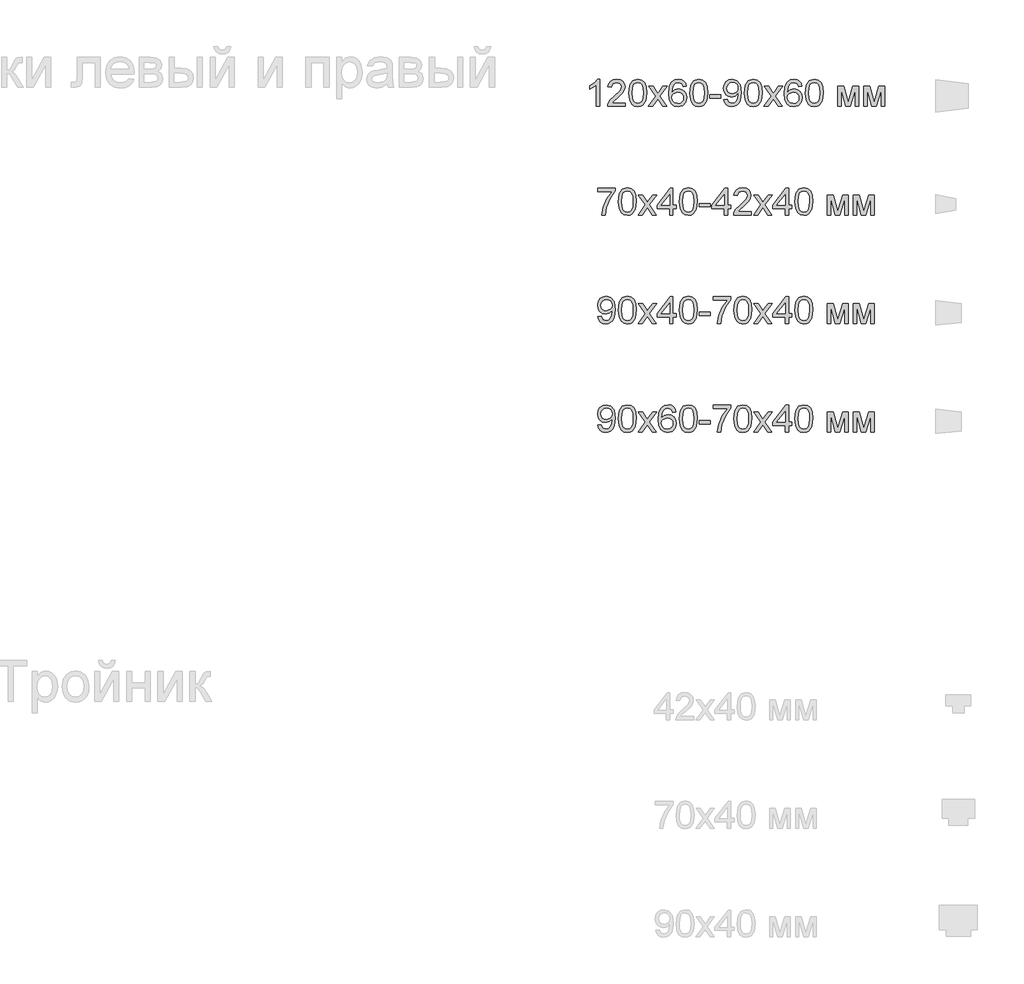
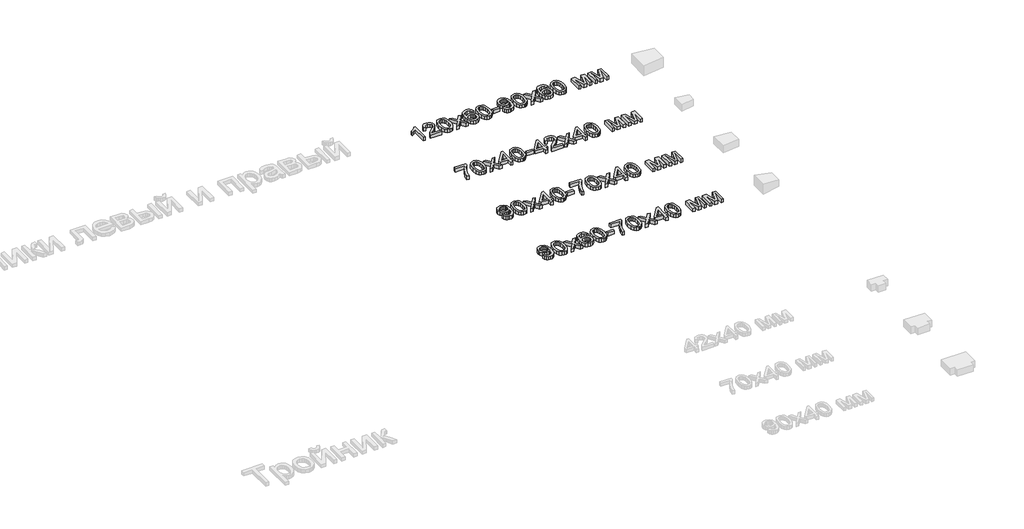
# One storey, part 17 of 21: 4 proxies.
"""IFC4 building model written with IfcOpenShell, lengths in millimetres."""

from ifc_helpers import new_model, si_unit, origin, origin_with_axes, place, context, project, spatial, polyline, outline, extrude, element, save

model = new_model("IFC4")

# Units and contexts
model_context = context("Model", 3, world=origin())
ifc_project = project(units=[si_unit("LENGTHUNIT", "METRE", prefix="MILLI")], contexts=[model_context])

# Site, building, storey
site = spatial("IfcSite", under=ifc_project)
building = spatial("IfcBuilding", under=site)
storey = spatial("IfcBuildingStorey", under=building, Name="Этаж 01", Elevation=0.0)

# Proxies
placement = place(None, origin())
element("IfcBuildingElementProxy", 1, Name="100 мм Arial", ObjectType="100 мм Arial", at=placement, inside=storey, context=model_context, shape_type="SweptSolid", body=[
    extrude(outline(polyline([(22604.0566494, -2534.8846335), (22591.4996106, -2534.8846335), (22591.4996106, -2456.5993449), (22579.6047594, -2465.0728936), (22566.3855331, -2471.4127266), (22566.3855331, -2459.5424009), (22584.7918956, -2447.7947025), (22595.9632455, -2434.4283234), (22604.0566494, -2434.4283234), (22604.0566494, -2534.8846335)])), origin_with_axes(), (0.0, 0.0, 1.0), 20.0),
    extrude(outline(polyline([(22698.2344402, -2522.3275947), (22698.2344402, -2534.8846335), (22632.3099866, -2534.8846335), (22633.6588873, -2526.2271439), (22641.2863073, -2512.8975529), (22657.0071312, -2498.3416887), (22678.6876435, -2477.4214659), (22684.1077715, -2463.1966954), (22678.9942118, -2451.6819889), (22665.6400954, -2446.9853621), (22651.7218932, -2451.5716243), (22646.4366552, -2464.2512904), (22633.8796165, -2462.6816606), (22636.92384, -2450.5354234), (22643.505862, -2441.6633359), (22653.282326, -2436.2370765), (22665.9098755, -2434.4283234), (22678.6293955, -2436.4394116), (22688.3874654, -2442.4726763), (22694.5954741, -2451.4857852), (22696.6648103, -2462.4364059), (22694.4329929, -2474.3435198), (22687.0140393, -2486.6553039), (22669.0246097, -2503.8599186), (22654.5791101, -2515.9387108), (22648.9137273, -2522.3275947), (22698.2344402, -2522.3275947)])), origin_with_axes(), (0.0, 0.0, 1.0), 20.0),
    extrude(outline(polyline([(22710.7914789, -2485.4658188), (22714.4825616, -2456.5625567), (22725.4454451, -2439.8975024), (22743.7537057, -2434.4283234), (22758.4199346, -2437.6656849), (22768.5489522, -2446.9976249), (22774.4350641, -2461.8600575), (22776.7159325, -2485.4658188), (22773.061638, -2514.2464536), (22762.1355427, -2530.9482962), (22753.9041831, -2535.0777716), (22743.7537057, -2536.4542634), (22730.7061576, -2534.0630304), (22720.7978692, -2526.8893315), (22713.2930765, -2509.8993147), (22710.7914789, -2485.4658188)]), holes=[polyline([(22723.3485177, -2485.4412934), (22724.8200457, -2505.1934908), (22729.2346296, -2516.6254238), (22735.8074546, -2522.0792744), (22743.7537057, -2523.8972246), (22751.6999568, -2522.073143), (22758.2727818, -2516.6008984), (22762.6873657, -2505.162834), (22764.1588937, -2485.4412934), (22762.7364166, -2466.13362), (22758.4689855, -2454.6127822), (22751.9084233, -2448.8922171), (22743.6065529, -2446.9853621), (22735.7461409, -2448.6653566), (22729.4308333, -2453.7053399), (22724.8690966, -2465.9435476), (22723.3485177, -2485.4412934)])]), origin_with_axes(), (0.0, 0.0, 1.0), 20.0),
    extrude(outline(polyline([(22782.9944518, -2534.8846335), (22809.825312, -2497.8021284), (22784.5640817, -2461.1120307), (22799.671769, -2461.1120307), (22811.8609257, -2478.7703665), (22817.5508339, -2487.1090251), (22822.4804527, -2480.2909454), (22836.3618666, -2461.1120307), (22851.4695539, -2461.1120307), (22824.9329993, -2497.8021284), (22850.4885352, -2534.8846335), (22835.380848, -2534.8846335), (22820.0033806, -2512.5909846), (22817.1829519, -2508.5197572), (22798.1021391, -2534.8846335), (22782.9944518, -2534.8846335)])), origin_with_axes(), (0.0, 0.0, 1.0), 20.0),
    extrude(outline(polyline([(22922.6915081, -2461.1120307), (22910.1344694, -2462.6816606), (22905.3765289, -2452.2092865), (22892.7949647, -2446.9853621), (22881.4641992, -2450.02652), (22872.8925487, -2461.4431245), (22869.3240934, -2483.8226126), (22880.3973414, -2473.8039596), (22894.1193399, -2470.5298098), (22905.7198854, -2472.7677586), (22915.4564956, -2479.481605), (22922.0599774, -2489.7393813), (22924.261138, -2502.6091198), (22920.1163342, -2519.9363618), (22908.7119923, -2532.1990949), (22892.2554044, -2536.4542634), (22878.0091742, -2533.6338347), (22866.6630803, -2525.1725488), (22859.241061, -2510.2365398), (22856.7670546, -2487.9919419), (22859.5139068, -2462.9820976), (22867.7544635, -2445.8817161), (22879.0055212, -2437.2916716), (22893.5797796, -2434.4283234), (22904.5978454, -2436.2002883), (22913.4208819, -2441.5161831), (22919.6012994, -2449.9590749), (22922.6915081, -2461.1120307)]), holes=[polyline([(22869.3240934, -2502.4129161), (22872.2303611, -2513.2899604), (22879.955883, -2521.1871606), (22891.2743858, -2523.8972246), (22899.5609277, -2522.4931416), (22906.0755047, -2518.2808928), (22910.2969506, -2511.6590169), (22911.7040992, -2503.0260527), (22910.3153447, -2494.7395108), (22906.1490811, -2488.4211375), (22899.5241395, -2484.4204208), (22890.759351, -2483.0868486), (22875.5658246, -2488.4211375), (22870.8845262, -2494.5862266), (22869.3240934, -2502.4129161)])]), origin_with_axes(), (0.0, 0.0, 1.0), 20.0),
    extrude(outline(polyline([(22935.2485469, -2485.4658188), (22938.9396296, -2456.5625567), (22949.9025131, -2439.8975024), (22968.2107737, -2434.4283234), (22982.8770026, -2437.6656849), (22993.0060202, -2446.9976249), (22998.8921321, -2461.8600575), (23001.1730005, -2485.4658188), (22997.518706, -2514.2464536), (22986.5926107, -2530.9482962), (22978.3612511, -2535.0777716), (22968.2107737, -2536.4542634), (22955.1632256, -2534.0630304), (22945.2549372, -2526.8893315), (22937.7501445, -2509.8993147), (22935.2485469, -2485.4658188)]), holes=[polyline([(22947.8055857, -2485.4412934), (22949.2771137, -2505.1934908), (22953.6916976, -2516.6254238), (22960.2645226, -2522.0792744), (22968.2107737, -2523.8972246), (22976.1570248, -2522.073143), (22982.7298498, -2516.6008984), (22987.1444337, -2505.162834), (22988.6159617, -2485.4412934), (22987.1934846, -2466.13362), (22982.9260535, -2454.6127822), (22976.3654912, -2448.8922171), (22968.0636209, -2446.9853621), (22960.2032089, -2448.6653566), (22953.8879013, -2453.7053399), (22949.3261646, -2465.9435476), (22947.8055857, -2485.4412934)])]), origin_with_axes(), (0.0, 0.0, 1.0), 20.0),
    extrude(outline(polyline([(23009.0211497, -2505.0616664), (23009.0211497, -2492.5046277), (23048.2618958, -2492.5046277), (23048.2618958, -2505.0616664), (23009.0211497, -2505.0616664)])), origin_with_axes(), (0.0, 0.0, 1.0), 20.0),
    extrude(outline(polyline([(23060.8189346, -2509.770556), (23073.3759734, -2508.2009261), (23079.0168306, -2520.1816164), (23089.709934, -2523.8972246), (23099.8757398, -2521.5059916), (23106.7673958, -2515.1171076), (23110.8754114, -2504.2032751), (23112.6902959, -2489.6351481), (23112.6167195, -2487.1826015), (23102.5735411, -2496.6984824), (23088.8024917, -2500.3527769), (23077.3521646, -2498.1209595), (23067.8209552, -2491.4255071), (23061.3922174, -2481.0818917), (23059.2493048, -2467.9055849), (23061.4964506, -2454.2939511), (23068.2378882, -2443.6253732), (23078.3638401, -2436.7275858), (23090.764529, -2434.4283234), (23108.6558567, -2439.6767732), (23120.9676408, -2454.6373076), (23125.1737583, -2482.7434921), (23120.9799035, -2513.2409095), (23115.7651763, -2523.2319713), (23108.5087039, -2530.5191005), (23099.5231862, -2534.9704726), (23089.1213228, -2536.4542634), (23078.3852999, -2534.7037582), (23069.8197808, -2529.4522427), (23063.8294356, -2521.0308107), (23060.8189346, -2509.770556)]), holes=[polyline([(23112.6167195, -2467.6112793), (23111.2616875, -2459.1009425), (23107.1965915, -2452.552643), (23100.8874152, -2448.3771823), (23092.8001427, -2446.9853621), (23084.4124332, -2448.4844813), (23077.6924554, -2452.9818387), (23073.2778715, -2459.8642976), (23071.8063435, -2468.5187216), (23073.1981637, -2476.277966), (23077.3736244, -2482.4369237), (23083.9280553, -2486.4560345), (23092.4567862, -2487.7957381), (23106.9390741, -2482.4369237), (23111.1973082, -2476.0511054), (23112.6167195, -2467.6112793)])]), origin_with_axes(), (0.0, 0.0, 1.0), 20.0),
    extrude(outline(polyline([(23136.1611672, -2485.4658188), (23139.8522499, -2456.5625567), (23150.8151334, -2439.8975024), (23169.123394, -2434.4283234), (23183.7896229, -2437.6656849), (23193.9186405, -2446.9976249), (23199.8047524, -2461.8600575), (23202.0856208, -2485.4658188), (23198.4313263, -2514.2464536), (23187.505231, -2530.9482962), (23179.2738714, -2535.0777716), (23169.123394, -2536.4542634), (23156.0758459, -2534.0630304), (23146.1675575, -2526.8893315), (23138.6627648, -2509.8993147), (23136.1611672, -2485.4658188)]), holes=[polyline([(23148.718206, -2485.4412934), (23150.189734, -2505.1934908), (23154.6043179, -2516.6254238), (23161.1771429, -2522.0792744), (23169.123394, -2523.8972246), (23177.0696451, -2522.073143), (23183.6424701, -2516.6008984), (23188.057054, -2505.162834), (23189.528582, -2485.4412934), (23188.1061049, -2466.13362), (23183.8386738, -2454.6127822), (23177.2781115, -2448.8922171), (23168.9762412, -2446.9853621), (23161.1158292, -2448.6653566), (23154.8005216, -2453.7053399), (23150.2387849, -2465.9435476), (23148.718206, -2485.4412934)])]), origin_with_axes(), (0.0, 0.0, 1.0), 20.0),
    extrude(outline(polyline([(23208.3641401, -2534.8846335), (23235.1950003, -2497.8021284), (23209.93377, -2461.1120307), (23225.0414573, -2461.1120307), (23237.230614, -2478.7703665), (23242.9205222, -2487.1090251), (23247.850141, -2480.2909454), (23261.7315549, -2461.1120307), (23276.8392422, -2461.1120307), (23250.3026876, -2497.8021284), (23275.8582235, -2534.8846335), (23260.7505362, -2534.8846335), (23245.3730689, -2512.5909846), (23242.5526402, -2508.5197572), (23223.4718274, -2534.8846335), (23208.3641401, -2534.8846335)])), origin_with_axes(), (0.0, 0.0, 1.0), 20.0),
    extrude(outline(polyline([(23348.0611964, -2461.1120307), (23335.5041577, -2462.6816606), (23330.7462172, -2452.2092865), (23318.164653, -2446.9853621), (23306.8338875, -2450.02652), (23298.262237, -2461.4431245), (23294.6937817, -2483.8226126), (23305.7670297, -2473.8039596), (23319.4890281, -2470.5298098), (23331.0895737, -2472.7677586), (23340.8261839, -2479.481605), (23347.4296657, -2489.7393813), (23349.6308263, -2502.6091198), (23345.4860225, -2519.9363618), (23334.0816806, -2532.1990949), (23317.6250927, -2536.4542634), (23303.3788624, -2533.6338347), (23292.0327686, -2525.1725488), (23284.6107493, -2510.2365398), (23282.1367429, -2487.9919419), (23284.8835951, -2462.9820976), (23293.1241518, -2445.8817161), (23304.3752095, -2437.2916716), (23318.9494679, -2434.4283234), (23329.9675336, -2436.2002883), (23338.7905702, -2441.5161831), (23344.9709877, -2449.9590749), (23348.0611964, -2461.1120307)]), holes=[polyline([(23294.6937817, -2502.4129161), (23297.6000494, -2513.2899604), (23305.3255713, -2521.1871606), (23316.644074, -2523.8972246), (23324.930616, -2522.4931416), (23331.445193, -2518.2808928), (23335.6666389, -2511.6590169), (23337.0737875, -2503.0260527), (23335.685033, -2494.7395108), (23331.5187694, -2488.4211375), (23324.8938278, -2484.4204208), (23316.1290393, -2483.0868486), (23300.9355129, -2488.4211375), (23296.2542145, -2494.5862266), (23294.6937817, -2502.4129161)])]), origin_with_axes(), (0.0, 0.0, 1.0), 20.0),
    extrude(outline(polyline([(23360.6182352, -2485.4658188), (23364.3093179, -2456.5625567), (23375.2722013, -2439.8975024), (23393.580462, -2434.4283234), (23408.2466908, -2437.6656849), (23418.3757084, -2446.9976249), (23424.2618204, -2461.8600575), (23426.5426887, -2485.4658188), (23422.8883943, -2514.2464536), (23411.962299, -2530.9482962), (23403.7309394, -2535.0777716), (23393.580462, -2536.4542634), (23380.5329139, -2534.0630304), (23370.6246255, -2526.8893315), (23363.1198328, -2509.8993147), (23360.6182352, -2485.4658188)]), holes=[polyline([(23373.175274, -2485.4412934), (23374.646802, -2505.1934908), (23379.0613859, -2516.6254238), (23385.6342109, -2522.0792744), (23393.580462, -2523.8972246), (23401.5267131, -2522.073143), (23408.0995381, -2516.6008984), (23412.514122, -2505.162834), (23413.98565, -2485.4412934), (23412.5631729, -2466.13362), (23408.2957418, -2454.6127822), (23401.7351795, -2448.8922171), (23393.4333092, -2446.9853621), (23385.5728972, -2448.6653566), (23379.2575896, -2453.7053399), (23374.6958529, -2465.9435476), (23373.175274, -2485.4412934)])]), origin_with_axes(), (0.0, 0.0, 1.0), 20.0),
    extrude(outline(polyline([(23479.9101035, -2461.1120307), (23501.5170394, -2461.1120307), (23518.169831, -2520.1693537), (23536.1224724, -2461.1120307), (23556.821966, -2461.1120307), (23556.821966, -2534.8846335), (23544.2649272, -2534.8846335), (23544.2649272, -2475.483954), (23526.214184, -2534.8846335), (23509.7330706, -2534.8846335), (23492.4671423, -2472.6389999), (23492.4671423, -2534.8846335), (23479.9101035, -2534.8846335), (23479.9101035, -2461.1120307)])), origin_with_axes(), (0.0, 0.0, 1.0), 20.0),
    extrude(outline(polyline([(23575.6575241, -2461.1120307), (23597.26446, -2461.1120307), (23613.9172516, -2520.1693537), (23631.869893, -2461.1120307), (23652.5693866, -2461.1120307), (23652.5693866, -2534.8846335), (23640.0123478, -2534.8846335), (23640.0123478, -2475.483954), (23621.9616046, -2534.8846335), (23605.4804912, -2534.8846335), (23588.2145629, -2472.6389999), (23588.2145629, -2534.8846335), (23575.6575241, -2534.8846335), (23575.6575241, -2461.1120307)])), origin_with_axes(), (0.0, 0.0, 1.0), 20.0),
])
element("IfcBuildingElementProxy", 2, Name="100 мм Arial", ObjectType="100 мм Arial", at=placement, inside=storey, context=model_context, shape_type="SweptSolid", body=[
    extrude(outline(polyline([(22595.4236852, -2848.554992), (22595.4236852, -2835.9979532), (22661.3481388, -2835.9979532), (22661.3481388, -2846.1514963), (22642.6474707, -2873.1662975), (22628.3368611, -2907.5877895), (22623.6770225, -2934.8846335), (22611.1199837, -2934.8846335), (22616.1109161, -2906.5577199), (22629.8083891, -2874.5397236), (22648.7911, -2848.554992), (22595.4236852, -2848.554992)])), origin_with_axes(), (0.0, 0.0, 1.0), 20.0),
    extrude(outline(polyline([(22672.3355477, -2885.4658188), (22676.0266304, -2856.5625567), (22686.9895138, -2839.8975024), (22705.2977745, -2834.4283234), (22719.9640033, -2837.6656849), (22730.0930209, -2846.9976249), (22735.9791329, -2861.8600575), (22738.2600012, -2885.4658188), (22734.6057067, -2914.2464536), (22723.6796115, -2930.9482962), (22715.4482518, -2935.0777716), (22705.2977745, -2936.4542634), (22692.2502264, -2934.0630304), (22682.341938, -2926.8893315), (22674.8371453, -2909.8993147), (22672.3355477, -2885.4658188)]), holes=[polyline([(22684.8925865, -2885.4412934), (22686.3641144, -2905.1934908), (22690.7786984, -2916.6254238), (22697.3515234, -2922.0792744), (22705.2977745, -2923.8972246), (22713.2440256, -2922.073143), (22719.8168505, -2916.6008984), (22724.2314345, -2905.162834), (22725.7029625, -2885.4412934), (22724.2804854, -2866.13362), (22720.0130543, -2854.6127822), (22713.452492, -2848.8922171), (22705.1506217, -2846.9853621), (22697.2902097, -2848.6653566), (22690.9749021, -2853.7053399), (22686.4131654, -2865.9435476), (22684.8925865, -2885.4412934)])]), origin_with_axes(), (0.0, 0.0, 1.0), 20.0),
    extrude(outline(polyline([(22744.5385206, -2934.8846335), (22771.3693808, -2897.8021284), (22746.1081505, -2861.1120307), (22761.2158377, -2861.1120307), (22773.4049945, -2878.7703665), (22779.0949027, -2887.1090251), (22784.0245214, -2880.2909454), (22797.9059354, -2861.1120307), (22813.0136227, -2861.1120307), (22786.4770681, -2897.8021284), (22812.032604, -2934.8846335), (22796.9249167, -2934.8846335), (22781.5474493, -2912.5909846), (22778.7270207, -2908.5197572), (22759.6462079, -2934.8846335), (22744.5385206, -2934.8846335)])), origin_with_axes(), (0.0, 0.0, 1.0), 20.0),
    extrude(outline(polyline([(22860.6911292, -2934.8846335), (22860.6911292, -2911.3401858), (22815.1718637, -2911.3401858), (22815.1718637, -2898.7831471), (22863.8303889, -2835.9979532), (22873.248168, -2835.9979532), (22873.248168, -2898.7831471), (22885.8052068, -2898.7831471), (22885.8052068, -2911.3401858), (22873.248168, -2911.3401858), (22873.248168, -2934.8846335), (22860.6911292, -2934.8846335)]), holes=[polyline([(22860.6911292, -2898.7831471), (22860.6911292, -2859.9838593), (22830.6229075, -2898.7831471), (22860.6911292, -2898.7831471)])]), origin_with_axes(), (0.0, 0.0, 1.0), 20.0),
    extrude(outline(polyline([(22896.7926157, -2885.4658188), (22900.4836984, -2856.5625567), (22911.4465818, -2839.8975024), (22929.7548425, -2834.4283234), (22944.4210713, -2837.6656849), (22954.5500889, -2846.9976249), (22960.4362009, -2861.8600575), (22962.7170692, -2885.4658188), (22959.0627747, -2914.2464536), (22948.1366795, -2930.9482962), (22939.9053198, -2935.0777716), (22929.7548425, -2936.4542634), (22916.7072944, -2934.0630304), (22906.799006, -2926.8893315), (22899.2942133, -2909.8993147), (22896.7926157, -2885.4658188)]), holes=[polyline([(22909.3496545, -2885.4412934), (22910.8211824, -2905.1934908), (22915.2357664, -2916.6254238), (22921.8085914, -2922.0792744), (22929.7548425, -2923.8972246), (22937.7010936, -2922.073143), (22944.2739185, -2916.6008984), (22948.6885025, -2905.162834), (22950.1600305, -2885.4412934), (22948.7375534, -2866.13362), (22944.4701223, -2854.6127822), (22937.90956, -2848.8922171), (22929.6076897, -2846.9853621), (22921.7472777, -2848.6653566), (22915.4319701, -2853.7053399), (22910.8702334, -2865.9435476), (22909.3496545, -2885.4412934)])]), origin_with_axes(), (0.0, 0.0, 1.0), 20.0),
    extrude(outline(polyline([(22970.5652185, -2905.0616664), (22970.5652185, -2892.5046277), (23009.8059646, -2892.5046277), (23009.8059646, -2905.0616664), (22970.5652185, -2905.0616664)])), origin_with_axes(), (0.0, 0.0, 1.0), 20.0),
    extrude(outline(polyline([(23061.6037495, -2934.8846335), (23061.6037495, -2911.3401858), (23016.084484, -2911.3401858), (23016.084484, -2898.7831471), (23064.7430092, -2835.9979532), (23074.1607883, -2835.9979532), (23074.1607883, -2898.7831471), (23086.7178271, -2898.7831471), (23086.7178271, -2911.3401858), (23074.1607883, -2911.3401858), (23074.1607883, -2934.8846335), (23061.6037495, -2934.8846335)]), holes=[polyline([(23061.6037495, -2898.7831471), (23061.6037495, -2859.9838593), (23031.5355278, -2898.7831471), (23061.6037495, -2898.7831471)])]), origin_with_axes(), (0.0, 0.0, 1.0), 20.0),
    extrude(outline(polyline([(23162.0600597, -2922.3275947), (23162.0600597, -2934.8846335), (23096.1356061, -2934.8846335), (23097.4845068, -2926.2271439), (23105.1119268, -2912.8975529), (23120.8327507, -2898.3416887), (23142.513263, -2877.4214659), (23147.9333911, -2863.1966954), (23142.8198313, -2851.6819889), (23129.4657149, -2846.9853621), (23115.5475128, -2851.5716243), (23110.2622748, -2864.2512904), (23097.705236, -2862.6816606), (23100.7494595, -2850.5354234), (23107.3314815, -2841.6633359), (23117.1079455, -2836.2370765), (23129.735495, -2834.4283234), (23142.455015, -2836.4394116), (23152.2130849, -2842.4726763), (23158.4210936, -2851.4857852), (23160.4904298, -2862.4364059), (23158.2586124, -2874.3435198), (23150.8396588, -2886.6553039), (23132.8502293, -2903.8599186), (23118.4047296, -2915.9387108), (23112.7393469, -2922.3275947), (23162.0600597, -2922.3275947)])), origin_with_axes(), (0.0, 0.0, 1.0), 20.0),
    extrude(outline(polyline([(23169.9082089, -2934.8846335), (23196.7390691, -2897.8021284), (23171.4778388, -2861.1120307), (23186.585526, -2861.1120307), (23198.7746828, -2878.7703665), (23204.464591, -2887.1090251), (23209.3942097, -2880.2909454), (23223.2756237, -2861.1120307), (23238.3833109, -2861.1120307), (23211.8467564, -2897.8021284), (23237.4022923, -2934.8846335), (23222.294605, -2934.8846335), (23206.9171376, -2912.5909846), (23204.096709, -2908.5197572), (23185.0158962, -2934.8846335), (23169.9082089, -2934.8846335)])), origin_with_axes(), (0.0, 0.0, 1.0), 20.0),
    extrude(outline(polyline([(23286.0608175, -2934.8846335), (23286.0608175, -2911.3401858), (23240.541552, -2911.3401858), (23240.541552, -2898.7831471), (23289.2000772, -2835.9979532), (23298.6178563, -2835.9979532), (23298.6178563, -2898.7831471), (23311.1748951, -2898.7831471), (23311.1748951, -2911.3401858), (23298.6178563, -2911.3401858), (23298.6178563, -2934.8846335), (23286.0608175, -2934.8846335)]), holes=[polyline([(23286.0608175, -2898.7831471), (23286.0608175, -2859.9838593), (23255.9925958, -2898.7831471), (23286.0608175, -2898.7831471)])]), origin_with_axes(), (0.0, 0.0, 1.0), 20.0),
    extrude(outline(polyline([(23322.162304, -2885.4658188), (23325.8533867, -2856.5625567), (23336.8162701, -2839.8975024), (23355.1245307, -2834.4283234), (23369.7907596, -2837.6656849), (23379.9197772, -2846.9976249), (23385.8058891, -2861.8600575), (23388.0867575, -2885.4658188), (23384.432463, -2914.2464536), (23373.5063678, -2930.9482962), (23365.2750081, -2935.0777716), (23355.1245307, -2936.4542634), (23342.0769826, -2934.0630304), (23332.1686942, -2926.8893315), (23324.6639015, -2909.8993147), (23322.162304, -2885.4658188)]), holes=[polyline([(23334.7193427, -2885.4412934), (23336.1908707, -2905.1934908), (23340.6054547, -2916.6254238), (23347.1782796, -2922.0792744), (23355.1245307, -2923.8972246), (23363.0707818, -2922.073143), (23369.6436068, -2916.6008984), (23374.0581908, -2905.162834), (23375.5297187, -2885.4412934), (23374.1072417, -2866.13362), (23369.8398106, -2854.6127822), (23363.2792483, -2848.8922171), (23354.9773779, -2846.9853621), (23347.116966, -2848.6653566), (23340.8016584, -2853.7053399), (23336.2399217, -2865.9435476), (23334.7193427, -2885.4412934)])]), origin_with_axes(), (0.0, 0.0, 1.0), 20.0),
    extrude(outline(polyline([(23441.4541723, -2861.1120307), (23463.0611081, -2861.1120307), (23479.7138998, -2920.1693537), (23497.6665411, -2861.1120307), (23518.3660347, -2861.1120307), (23518.3660347, -2934.8846335), (23505.808996, -2934.8846335), (23505.808996, -2875.483954), (23487.7582527, -2934.8846335), (23471.2771394, -2934.8846335), (23454.011211, -2872.6389999), (23454.011211, -2934.8846335), (23441.4541723, -2934.8846335), (23441.4541723, -2861.1120307)])), origin_with_axes(), (0.0, 0.0, 1.0), 20.0),
    extrude(outline(polyline([(23537.2015929, -2861.1120307), (23558.8085287, -2861.1120307), (23575.4613204, -2920.1693537), (23593.4139618, -2861.1120307), (23614.1134553, -2861.1120307), (23614.1134553, -2934.8846335), (23601.5564166, -2934.8846335), (23601.5564166, -2875.483954), (23583.5056734, -2934.8846335), (23567.02456, -2934.8846335), (23549.7586317, -2872.6389999), (23549.7586317, -2934.8846335), (23537.2015929, -2934.8846335), (23537.2015929, -2861.1120307)])), origin_with_axes(), (0.0, 0.0, 1.0), 20.0),
])
element("IfcBuildingElementProxy", 3, Name="100 мм Arial", ObjectType="100 мм Arial", at=placement, inside=storey, context=model_context, shape_type="SweptSolid", body=[
    extrude(outline(polyline([(22596.9933151, -3309.770556), (22609.5503539, -3308.2009261), (22615.1912111, -3320.1816164), (22625.8843144, -3323.8972246), (22636.0501202, -3321.5059916), (22642.9417763, -3315.1171076), (22647.0497919, -3304.2032751), (22648.8646764, -3289.6351481), (22648.7911, -3287.1826015), (22638.7479215, -3296.6984824), (22624.9768722, -3300.3527769), (22613.5265451, -3298.1209595), (22603.9953357, -3291.4255071), (22597.5665979, -3281.0818917), (22595.4236852, -3267.9055849), (22597.6708311, -3254.2939511), (22604.4122687, -3243.6253732), (22614.5382206, -3236.7275858), (22626.9389095, -3234.4283234), (22644.8302372, -3239.6767732), (22657.1420213, -3254.6373076), (22661.3481388, -3282.7434921), (22657.154284, -3313.2409095), (22651.9395567, -3323.2319713), (22644.6830844, -3330.5191005), (22635.6975667, -3334.9704726), (22625.2957032, -3336.4542634), (22614.5596804, -3334.7037582), (22605.9941612, -3329.4522427), (22600.0038161, -3321.0308107), (22596.9933151, -3309.770556)]), holes=[polyline([(22648.7911, -3267.6112793), (22647.436068, -3259.1009425), (22643.3709719, -3252.552643), (22637.0617957, -3248.3771823), (22628.9745232, -3246.9853621), (22620.5868137, -3248.4844813), (22613.8668359, -3252.9818387), (22609.452252, -3259.8642976), (22607.980724, -3268.5187216), (22609.3725442, -3276.277966), (22613.5480049, -3282.4369237), (22620.1024357, -3286.4560345), (22628.6311667, -3287.7957381), (22643.1134545, -3282.4369237), (22647.3716886, -3276.0511054), (22648.7911, -3267.6112793)])]), origin_with_axes(), (0.0, 0.0, 1.0), 20.0),
    extrude(outline(polyline([(22672.3355477, -3285.4658188), (22676.0266304, -3256.5625567), (22686.9895138, -3239.8975024), (22705.2977745, -3234.4283234), (22719.9640033, -3237.6656849), (22730.0930209, -3246.9976249), (22735.9791329, -3261.8600575), (22738.2600012, -3285.4658188), (22734.6057067, -3314.2464536), (22723.6796115, -3330.9482962), (22715.4482518, -3335.0777716), (22705.2977745, -3336.4542634), (22692.2502264, -3334.0630304), (22682.341938, -3326.8893315), (22674.8371453, -3309.8993147), (22672.3355477, -3285.4658188)]), holes=[polyline([(22684.8925865, -3285.4412934), (22686.3641144, -3305.1934908), (22690.7786984, -3316.6254238), (22697.3515234, -3322.0792744), (22705.2977745, -3323.8972246), (22713.2440256, -3322.073143), (22719.8168505, -3316.6008984), (22724.2314345, -3305.162834), (22725.7029625, -3285.4412934), (22724.2804854, -3266.13362), (22720.0130543, -3254.6127822), (22713.452492, -3248.8922171), (22705.1506217, -3246.9853621), (22697.2902097, -3248.6653566), (22690.9749021, -3253.7053399), (22686.4131654, -3265.9435476), (22684.8925865, -3285.4412934)])]), origin_with_axes(), (0.0, 0.0, 1.0), 20.0),
    extrude(outline(polyline([(22744.5385206, -3334.8846335), (22771.3693808, -3297.8021284), (22746.1081505, -3261.1120307), (22761.2158377, -3261.1120307), (22773.4049945, -3278.7703665), (22779.0949027, -3287.1090251), (22784.0245214, -3280.2909454), (22797.9059354, -3261.1120307), (22813.0136227, -3261.1120307), (22786.4770681, -3297.8021284), (22812.032604, -3334.8846335), (22796.9249167, -3334.8846335), (22781.5474493, -3312.5909846), (22778.7270207, -3308.5197572), (22759.6462079, -3334.8846335), (22744.5385206, -3334.8846335)])), origin_with_axes(), (0.0, 0.0, 1.0), 20.0),
    extrude(outline(polyline([(22860.6911292, -3334.8846335), (22860.6911292, -3311.3401858), (22815.1718637, -3311.3401858), (22815.1718637, -3298.7831471), (22863.8303889, -3235.9979532), (22873.248168, -3235.9979532), (22873.248168, -3298.7831471), (22885.8052068, -3298.7831471), (22885.8052068, -3311.3401858), (22873.248168, -3311.3401858), (22873.248168, -3334.8846335), (22860.6911292, -3334.8846335)]), holes=[polyline([(22860.6911292, -3298.7831471), (22860.6911292, -3259.9838593), (22830.6229075, -3298.7831471), (22860.6911292, -3298.7831471)])]), origin_with_axes(), (0.0, 0.0, 1.0), 20.0),
    extrude(outline(polyline([(22896.7926157, -3285.4658188), (22900.4836984, -3256.5625567), (22911.4465818, -3239.8975024), (22929.7548425, -3234.4283234), (22944.4210713, -3237.6656849), (22954.5500889, -3246.9976249), (22960.4362009, -3261.8600575), (22962.7170692, -3285.4658188), (22959.0627747, -3314.2464536), (22948.1366795, -3330.9482962), (22939.9053198, -3335.0777716), (22929.7548425, -3336.4542634), (22916.7072944, -3334.0630304), (22906.799006, -3326.8893315), (22899.2942133, -3309.8993147), (22896.7926157, -3285.4658188)]), holes=[polyline([(22909.3496545, -3285.4412934), (22910.8211824, -3305.1934908), (22915.2357664, -3316.6254238), (22921.8085914, -3322.0792744), (22929.7548425, -3323.8972246), (22937.7010936, -3322.073143), (22944.2739185, -3316.6008984), (22948.6885025, -3305.162834), (22950.1600305, -3285.4412934), (22948.7375534, -3266.13362), (22944.4701223, -3254.6127822), (22937.90956, -3248.8922171), (22929.6076897, -3246.9853621), (22921.7472777, -3248.6653566), (22915.4319701, -3253.7053399), (22910.8702334, -3265.9435476), (22909.3496545, -3285.4412934)])]), origin_with_axes(), (0.0, 0.0, 1.0), 20.0),
    extrude(outline(polyline([(22970.5652185, -3305.0616664), (22970.5652185, -3292.5046277), (23009.8059646, -3292.5046277), (23009.8059646, -3305.0616664), (22970.5652185, -3305.0616664)])), origin_with_axes(), (0.0, 0.0, 1.0), 20.0),
    extrude(outline(polyline([(23020.7933735, -3248.554992), (23020.7933735, -3235.9979532), (23086.7178271, -3235.9979532), (23086.7178271, -3246.1514963), (23068.017159, -3273.1662975), (23053.7065494, -3307.5877895), (23049.0467108, -3334.8846335), (23036.489672, -3334.8846335), (23041.4806044, -3306.5577199), (23055.1780773, -3274.5397236), (23074.1607883, -3248.554992), (23020.7933735, -3248.554992)])), origin_with_axes(), (0.0, 0.0, 1.0), 20.0),
    extrude(outline(polyline([(23097.705236, -3285.4658188), (23101.3963187, -3256.5625567), (23112.3592021, -3239.8975024), (23130.6674628, -3234.4283234), (23145.3336916, -3237.6656849), (23155.4627092, -3246.9976249), (23161.3488212, -3261.8600575), (23163.6296895, -3285.4658188), (23159.975395, -3314.2464536), (23149.0492998, -3330.9482962), (23140.8179401, -3335.0777716), (23130.6674628, -3336.4542634), (23117.6199147, -3334.0630304), (23107.7116263, -3326.8893315), (23100.2068336, -3309.8993147), (23097.705236, -3285.4658188)]), holes=[polyline([(23110.2622748, -3285.4412934), (23111.7338027, -3305.1934908), (23116.1483867, -3316.6254238), (23122.7212117, -3322.0792744), (23130.6674628, -3323.8972246), (23138.6137138, -3322.073143), (23145.1865388, -3316.6008984), (23149.6011228, -3305.162834), (23151.0726508, -3285.4412934), (23149.6501737, -3266.13362), (23145.3827426, -3254.6127822), (23138.8221803, -3248.8922171), (23130.52031, -3246.9853621), (23122.659898, -3248.6653566), (23116.3445904, -3253.7053399), (23111.7828537, -3265.9435476), (23110.2622748, -3285.4412934)])]), origin_with_axes(), (0.0, 0.0, 1.0), 20.0),
    extrude(outline(polyline([(23169.9082089, -3334.8846335), (23196.7390691, -3297.8021284), (23171.4778388, -3261.1120307), (23186.585526, -3261.1120307), (23198.7746828, -3278.7703665), (23204.464591, -3287.1090251), (23209.3942097, -3280.2909454), (23223.2756237, -3261.1120307), (23238.3833109, -3261.1120307), (23211.8467564, -3297.8021284), (23237.4022923, -3334.8846335), (23222.294605, -3334.8846335), (23206.9171376, -3312.5909846), (23204.096709, -3308.5197572), (23185.0158962, -3334.8846335), (23169.9082089, -3334.8846335)])), origin_with_axes(), (0.0, 0.0, 1.0), 20.0),
    extrude(outline(polyline([(23286.0608175, -3334.8846335), (23286.0608175, -3311.3401858), (23240.541552, -3311.3401858), (23240.541552, -3298.7831471), (23289.2000772, -3235.9979532), (23298.6178563, -3235.9979532), (23298.6178563, -3298.7831471), (23311.1748951, -3298.7831471), (23311.1748951, -3311.3401858), (23298.6178563, -3311.3401858), (23298.6178563, -3334.8846335), (23286.0608175, -3334.8846335)]), holes=[polyline([(23286.0608175, -3298.7831471), (23286.0608175, -3259.9838593), (23255.9925958, -3298.7831471), (23286.0608175, -3298.7831471)])]), origin_with_axes(), (0.0, 0.0, 1.0), 20.0),
    extrude(outline(polyline([(23322.162304, -3285.4658188), (23325.8533867, -3256.5625567), (23336.8162701, -3239.8975024), (23355.1245307, -3234.4283234), (23369.7907596, -3237.6656849), (23379.9197772, -3246.9976249), (23385.8058891, -3261.8600575), (23388.0867575, -3285.4658188), (23384.432463, -3314.2464536), (23373.5063678, -3330.9482962), (23365.2750081, -3335.0777716), (23355.1245307, -3336.4542634), (23342.0769826, -3334.0630304), (23332.1686942, -3326.8893315), (23324.6639015, -3309.8993147), (23322.162304, -3285.4658188)]), holes=[polyline([(23334.7193427, -3285.4412934), (23336.1908707, -3305.1934908), (23340.6054547, -3316.6254238), (23347.1782796, -3322.0792744), (23355.1245307, -3323.8972246), (23363.0707818, -3322.073143), (23369.6436068, -3316.6008984), (23374.0581908, -3305.162834), (23375.5297187, -3285.4412934), (23374.1072417, -3266.13362), (23369.8398106, -3254.6127822), (23363.2792483, -3248.8922171), (23354.9773779, -3246.9853621), (23347.116966, -3248.6653566), (23340.8016584, -3253.7053399), (23336.2399217, -3265.9435476), (23334.7193427, -3285.4412934)])]), origin_with_axes(), (0.0, 0.0, 1.0), 20.0),
    extrude(outline(polyline([(23441.4541723, -3261.1120307), (23463.0611081, -3261.1120307), (23479.7138998, -3320.1693537), (23497.6665411, -3261.1120307), (23518.3660347, -3261.1120307), (23518.3660347, -3334.8846335), (23505.808996, -3334.8846335), (23505.808996, -3275.483954), (23487.7582527, -3334.8846335), (23471.2771394, -3334.8846335), (23454.011211, -3272.6389999), (23454.011211, -3334.8846335), (23441.4541723, -3334.8846335), (23441.4541723, -3261.1120307)])), origin_with_axes(), (0.0, 0.0, 1.0), 20.0),
    extrude(outline(polyline([(23537.2015929, -3261.1120307), (23558.8085287, -3261.1120307), (23575.4613204, -3320.1693537), (23593.4139618, -3261.1120307), (23614.1134553, -3261.1120307), (23614.1134553, -3334.8846335), (23601.5564166, -3334.8846335), (23601.5564166, -3275.483954), (23583.5056734, -3334.8846335), (23567.02456, -3334.8846335), (23549.7586317, -3272.6389999), (23549.7586317, -3334.8846335), (23537.2015929, -3334.8846335), (23537.2015929, -3261.1120307)])), origin_with_axes(), (0.0, 0.0, 1.0), 20.0),
])
element("IfcBuildingElementProxy", 4, Name="100 мм Arial", ObjectType="100 мм Arial", at=placement, inside=storey, context=model_context, shape_type="SweptSolid", body=[
    extrude(outline(polyline([(22596.9933151, -3709.770556), (22609.5503539, -3708.2009261), (22615.1912111, -3720.1816164), (22625.8843144, -3723.8972246), (22636.0501202, -3721.5059916), (22642.9417763, -3715.1171076), (22647.0497919, -3704.2032751), (22648.8646764, -3689.6351481), (22648.7911, -3687.1826015), (22638.7479215, -3696.6984824), (22624.9768722, -3700.3527769), (22613.5265451, -3698.1209595), (22603.9953357, -3691.4255071), (22597.5665979, -3681.0818917), (22595.4236852, -3667.9055849), (22597.6708311, -3654.2939511), (22604.4122687, -3643.6253732), (22614.5382206, -3636.7275858), (22626.9389095, -3634.4283234), (22644.8302372, -3639.6767732), (22657.1420213, -3654.6373076), (22661.3481388, -3682.7434921), (22657.154284, -3713.2409095), (22651.9395567, -3723.2319713), (22644.6830844, -3730.5191005), (22635.6975667, -3734.9704726), (22625.2957032, -3736.4542634), (22614.5596804, -3734.7037582), (22605.9941612, -3729.4522427), (22600.0038161, -3721.0308107), (22596.9933151, -3709.770556)]), holes=[polyline([(22648.7911, -3667.6112793), (22647.436068, -3659.1009425), (22643.3709719, -3652.552643), (22637.0617957, -3648.3771823), (22628.9745232, -3646.9853621), (22620.5868137, -3648.4844813), (22613.8668359, -3652.9818387), (22609.452252, -3659.8642976), (22607.980724, -3668.5187216), (22609.3725442, -3676.277966), (22613.5480049, -3682.4369237), (22620.1024357, -3686.4560345), (22628.6311667, -3687.7957381), (22643.1134545, -3682.4369237), (22647.3716886, -3676.0511054), (22648.7911, -3667.6112793)])]), origin_with_axes(), (0.0, 0.0, 1.0), 20.0),
    extrude(outline(polyline([(22672.3355477, -3685.4658188), (22676.0266304, -3656.5625567), (22686.9895138, -3639.8975024), (22705.2977745, -3634.4283234), (22719.9640033, -3637.6656849), (22730.0930209, -3646.9976249), (22735.9791329, -3661.8600575), (22738.2600012, -3685.4658188), (22734.6057067, -3714.2464536), (22723.6796115, -3730.9482962), (22715.4482518, -3735.0777716), (22705.2977745, -3736.4542634), (22692.2502264, -3734.0630304), (22682.341938, -3726.8893315), (22674.8371453, -3709.8993147), (22672.3355477, -3685.4658188)]), holes=[polyline([(22684.8925865, -3685.4412934), (22686.3641144, -3705.1934908), (22690.7786984, -3716.6254238), (22697.3515234, -3722.0792744), (22705.2977745, -3723.8972246), (22713.2440256, -3722.073143), (22719.8168505, -3716.6008984), (22724.2314345, -3705.162834), (22725.7029625, -3685.4412934), (22724.2804854, -3666.13362), (22720.0130543, -3654.6127822), (22713.452492, -3648.8922171), (22705.1506217, -3646.9853621), (22697.2902097, -3648.6653566), (22690.9749021, -3653.7053399), (22686.4131654, -3665.9435476), (22684.8925865, -3685.4412934)])]), origin_with_axes(), (0.0, 0.0, 1.0), 20.0),
    extrude(outline(polyline([(22744.5385206, -3734.8846335), (22771.3693808, -3697.8021284), (22746.1081505, -3661.1120307), (22761.2158377, -3661.1120307), (22773.4049945, -3678.7703665), (22779.0949027, -3687.1090251), (22784.0245214, -3680.2909454), (22797.9059354, -3661.1120307), (22813.0136227, -3661.1120307), (22786.4770681, -3697.8021284), (22812.032604, -3734.8846335), (22796.9249167, -3734.8846335), (22781.5474493, -3712.5909846), (22778.7270207, -3708.5197572), (22759.6462079, -3734.8846335), (22744.5385206, -3734.8846335)])), origin_with_axes(), (0.0, 0.0, 1.0), 20.0),
    extrude(outline(polyline([(22884.2355769, -3661.1120307), (22871.6785381, -3662.6816606), (22866.9205977, -3652.2092865), (22854.3390334, -3646.9853621), (22843.008268, -3650.02652), (22834.4366175, -3661.4431245), (22830.8681622, -3683.8226126), (22841.9414102, -3673.8039596), (22855.6634086, -3670.5298098), (22867.2639542, -3672.7677586), (22877.0005643, -3679.481605), (22883.6040462, -3689.7393813), (22885.8052068, -3702.6091198), (22881.660403, -3719.9363618), (22870.2560611, -3732.1990949), (22853.7994732, -3736.4542634), (22839.5532429, -3733.6338347), (22828.2071491, -3725.1725488), (22820.7851298, -3710.2365398), (22818.3111234, -3687.9919419), (22821.0579756, -3662.9820976), (22829.2985323, -3645.8817161), (22840.54959, -3637.2916716), (22855.1238484, -3634.4283234), (22866.1419141, -3636.2002883), (22874.9649506, -3641.5161831), (22881.1453682, -3649.9590749), (22884.2355769, -3661.1120307)]), holes=[polyline([(22830.8681622, -3702.4129161), (22833.7744299, -3713.2899604), (22841.4999518, -3721.1871606), (22852.8184545, -3723.8972246), (22861.1049965, -3722.4931416), (22867.6195735, -3718.2808928), (22871.8410194, -3711.6590169), (22873.248168, -3703.0260527), (22871.8594135, -3694.7395108), (22867.6931499, -3688.4211375), (22861.0682083, -3684.4204208), (22852.3034197, -3683.0868486), (22837.1098933, -3688.4211375), (22832.4285949, -3694.5862266), (22830.8681622, -3702.4129161)])]), origin_with_axes(), (0.0, 0.0, 1.0), 20.0),
    extrude(outline(polyline([(22896.7926157, -3685.4658188), (22900.4836984, -3656.5625567), (22911.4465818, -3639.8975024), (22929.7548425, -3634.4283234), (22944.4210713, -3637.6656849), (22954.5500889, -3646.9976249), (22960.4362009, -3661.8600575), (22962.7170692, -3685.4658188), (22959.0627747, -3714.2464536), (22948.1366795, -3730.9482962), (22939.9053198, -3735.0777716), (22929.7548425, -3736.4542634), (22916.7072944, -3734.0630304), (22906.799006, -3726.8893315), (22899.2942133, -3709.8993147), (22896.7926157, -3685.4658188)]), holes=[polyline([(22909.3496545, -3685.4412934), (22910.8211824, -3705.1934908), (22915.2357664, -3716.6254238), (22921.8085914, -3722.0792744), (22929.7548425, -3723.8972246), (22937.7010936, -3722.073143), (22944.2739185, -3716.6008984), (22948.6885025, -3705.162834), (22950.1600305, -3685.4412934), (22948.7375534, -3666.13362), (22944.4701223, -3654.6127822), (22937.90956, -3648.8922171), (22929.6076897, -3646.9853621), (22921.7472777, -3648.6653566), (22915.4319701, -3653.7053399), (22910.8702334, -3665.9435476), (22909.3496545, -3685.4412934)])]), origin_with_axes(), (0.0, 0.0, 1.0), 20.0),
    extrude(outline(polyline([(22970.5652185, -3705.0616664), (22970.5652185, -3692.5046277), (23009.8059646, -3692.5046277), (23009.8059646, -3705.0616664), (22970.5652185, -3705.0616664)])), origin_with_axes(), (0.0, 0.0, 1.0), 20.0),
    extrude(outline(polyline([(23020.7933735, -3648.554992), (23020.7933735, -3635.9979532), (23086.7178271, -3635.9979532), (23086.7178271, -3646.1514963), (23068.017159, -3673.1662975), (23053.7065494, -3707.5877895), (23049.0467108, -3734.8846335), (23036.489672, -3734.8846335), (23041.4806044, -3706.5577199), (23055.1780773, -3674.5397236), (23074.1607883, -3648.554992), (23020.7933735, -3648.554992)])), origin_with_axes(), (0.0, 0.0, 1.0), 20.0),
    extrude(outline(polyline([(23097.705236, -3685.4658188), (23101.3963187, -3656.5625567), (23112.3592021, -3639.8975024), (23130.6674628, -3634.4283234), (23145.3336916, -3637.6656849), (23155.4627092, -3646.9976249), (23161.3488212, -3661.8600575), (23163.6296895, -3685.4658188), (23159.975395, -3714.2464536), (23149.0492998, -3730.9482962), (23140.8179401, -3735.0777716), (23130.6674628, -3736.4542634), (23117.6199147, -3734.0630304), (23107.7116263, -3726.8893315), (23100.2068336, -3709.8993147), (23097.705236, -3685.4658188)]), holes=[polyline([(23110.2622748, -3685.4412934), (23111.7338027, -3705.1934908), (23116.1483867, -3716.6254238), (23122.7212117, -3722.0792744), (23130.6674628, -3723.8972246), (23138.6137138, -3722.073143), (23145.1865388, -3716.6008984), (23149.6011228, -3705.162834), (23151.0726508, -3685.4412934), (23149.6501737, -3666.13362), (23145.3827426, -3654.6127822), (23138.8221803, -3648.8922171), (23130.52031, -3646.9853621), (23122.659898, -3648.6653566), (23116.3445904, -3653.7053399), (23111.7828537, -3665.9435476), (23110.2622748, -3685.4412934)])]), origin_with_axes(), (0.0, 0.0, 1.0), 20.0),
    extrude(outline(polyline([(23169.9082089, -3734.8846335), (23196.7390691, -3697.8021284), (23171.4778388, -3661.1120307), (23186.585526, -3661.1120307), (23198.7746828, -3678.7703665), (23204.464591, -3687.1090251), (23209.3942097, -3680.2909454), (23223.2756237, -3661.1120307), (23238.3833109, -3661.1120307), (23211.8467564, -3697.8021284), (23237.4022923, -3734.8846335), (23222.294605, -3734.8846335), (23206.9171376, -3712.5909846), (23204.096709, -3708.5197572), (23185.0158962, -3734.8846335), (23169.9082089, -3734.8846335)])), origin_with_axes(), (0.0, 0.0, 1.0), 20.0),
    extrude(outline(polyline([(23286.0608175, -3734.8846335), (23286.0608175, -3711.3401858), (23240.541552, -3711.3401858), (23240.541552, -3698.7831471), (23289.2000772, -3635.9979532), (23298.6178563, -3635.9979532), (23298.6178563, -3698.7831471), (23311.1748951, -3698.7831471), (23311.1748951, -3711.3401858), (23298.6178563, -3711.3401858), (23298.6178563, -3734.8846335), (23286.0608175, -3734.8846335)]), holes=[polyline([(23286.0608175, -3698.7831471), (23286.0608175, -3659.9838593), (23255.9925958, -3698.7831471), (23286.0608175, -3698.7831471)])]), origin_with_axes(), (0.0, 0.0, 1.0), 20.0),
    extrude(outline(polyline([(23322.162304, -3685.4658188), (23325.8533867, -3656.5625567), (23336.8162701, -3639.8975024), (23355.1245307, -3634.4283234), (23369.7907596, -3637.6656849), (23379.9197772, -3646.9976249), (23385.8058891, -3661.8600575), (23388.0867575, -3685.4658188), (23384.432463, -3714.2464536), (23373.5063678, -3730.9482962), (23365.2750081, -3735.0777716), (23355.1245307, -3736.4542634), (23342.0769826, -3734.0630304), (23332.1686942, -3726.8893315), (23324.6639015, -3709.8993147), (23322.162304, -3685.4658188)]), holes=[polyline([(23334.7193427, -3685.4412934), (23336.1908707, -3705.1934908), (23340.6054547, -3716.6254238), (23347.1782796, -3722.0792744), (23355.1245307, -3723.8972246), (23363.0707818, -3722.073143), (23369.6436068, -3716.6008984), (23374.0581908, -3705.162834), (23375.5297187, -3685.4412934), (23374.1072417, -3666.13362), (23369.8398106, -3654.6127822), (23363.2792483, -3648.8922171), (23354.9773779, -3646.9853621), (23347.116966, -3648.6653566), (23340.8016584, -3653.7053399), (23336.2399217, -3665.9435476), (23334.7193427, -3685.4412934)])]), origin_with_axes(), (0.0, 0.0, 1.0), 20.0),
    extrude(outline(polyline([(23441.4541723, -3661.1120307), (23463.0611081, -3661.1120307), (23479.7138998, -3720.1693537), (23497.6665411, -3661.1120307), (23518.3660347, -3661.1120307), (23518.3660347, -3734.8846335), (23505.808996, -3734.8846335), (23505.808996, -3675.483954), (23487.7582527, -3734.8846335), (23471.2771394, -3734.8846335), (23454.011211, -3672.6389999), (23454.011211, -3734.8846335), (23441.4541723, -3734.8846335), (23441.4541723, -3661.1120307)])), origin_with_axes(), (0.0, 0.0, 1.0), 20.0),
    extrude(outline(polyline([(23537.2015929, -3661.1120307), (23558.8085287, -3661.1120307), (23575.4613204, -3720.1693537), (23593.4139618, -3661.1120307), (23614.1134553, -3661.1120307), (23614.1134553, -3734.8846335), (23601.5564166, -3734.8846335), (23601.5564166, -3675.483954), (23583.5056734, -3734.8846335), (23567.02456, -3734.8846335), (23549.7586317, -3672.6389999), (23549.7586317, -3734.8846335), (23537.2015929, -3734.8846335), (23537.2015929, -3661.1120307)])), origin_with_axes(), (0.0, 0.0, 1.0), 20.0),
])

save(model, "model.ifc")
